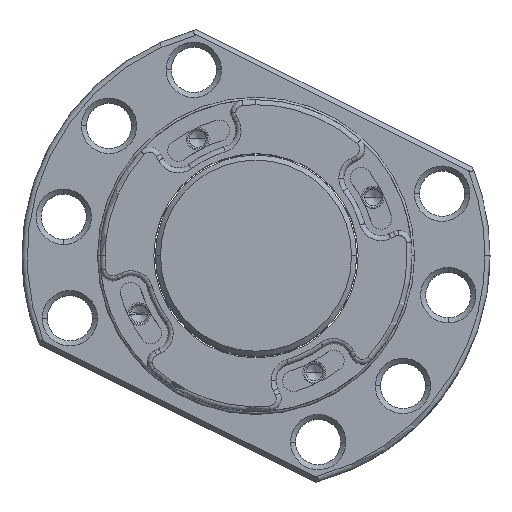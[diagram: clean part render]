
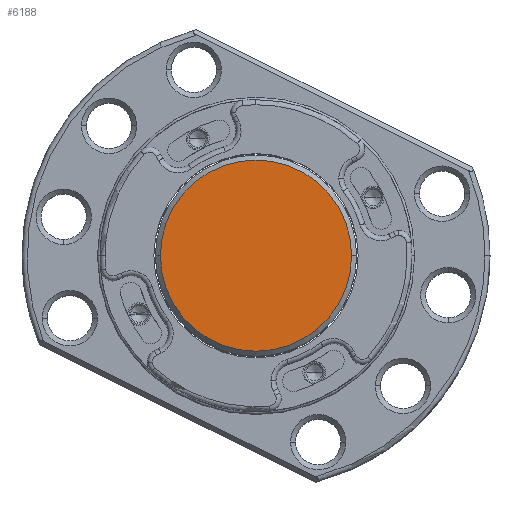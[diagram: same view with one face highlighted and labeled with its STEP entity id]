
A CAD part, top view. The second image highlights one B-rep face of the part: STEP entity #6188.
In plain terms, the highlighted planar face has unit normal (0, 0, 1).
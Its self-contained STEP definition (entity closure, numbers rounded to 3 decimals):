
#559 = CARTESIAN_POINT ( 'NONE',  ( 0., 0., 47. ) ) ;
#668 = CIRCLE ( 'NONE', #1292, 19. ) ;
#1292 = AXIS2_PLACEMENT_3D ( 'NONE', #559, #7142, #4967 ) ;
#1700 = DIRECTION ( 'NONE',  ( -1., 0., 0. ) ) ;
#1933 = FACE_OUTER_BOUND ( 'NONE', #3790, .T. ) ;
#2839 = VERTEX_POINT ( 'NONE', #6388 ) ;
#3133 = VERTEX_POINT ( 'NONE', #13661 ) ;
#3790 = EDGE_LOOP ( 'NONE', ( #12309, #14058 ) ) ;
#3985 = DIRECTION ( 'NONE',  ( 0., 0., 1. ) ) ;
#4080 = PLANE ( 'NONE',  #9905 ) ;
#4967 = DIRECTION ( 'NONE',  ( -1., 0., 0. ) ) ;
#5951 = AXIS2_PLACEMENT_3D ( 'NONE', #9628, #3985, #11877 ) ;
#6188 = ADVANCED_FACE ( 'NONE', ( #1933 ), #4080, .F. ) ;
#6388 = CARTESIAN_POINT ( 'NONE',  ( 19., 0., 47. ) ) ;
#7142 = DIRECTION ( 'NONE',  ( 0., 0., 1. ) ) ;
#7345 = CARTESIAN_POINT ( 'NONE',  ( 0., 0., 47. ) ) ;
#8346 = EDGE_CURVE ( 'NONE', #2839, #3133, #668, .T. ) ;
#9628 = CARTESIAN_POINT ( 'NONE',  ( 0., 0., 47. ) ) ;
#9905 = AXIS2_PLACEMENT_3D ( 'NONE', #7345, #11883, #1700 ) ;
#10796 = EDGE_CURVE ( 'NONE', #3133, #2839, #11884, .T. ) ;
#11877 = DIRECTION ( 'NONE',  ( -1., 0., 0. ) ) ;
#11883 = DIRECTION ( 'NONE',  ( 0., 0., -1. ) ) ;
#11884 = CIRCLE ( 'NONE', #5951, 19. ) ;
#12309 = ORIENTED_EDGE ( 'NONE', *, *, #10796, .T. ) ;
#13661 = CARTESIAN_POINT ( 'NONE',  ( -19., 0., 47. ) ) ;
#14058 = ORIENTED_EDGE ( 'NONE', *, *, #8346, .T. ) ;
